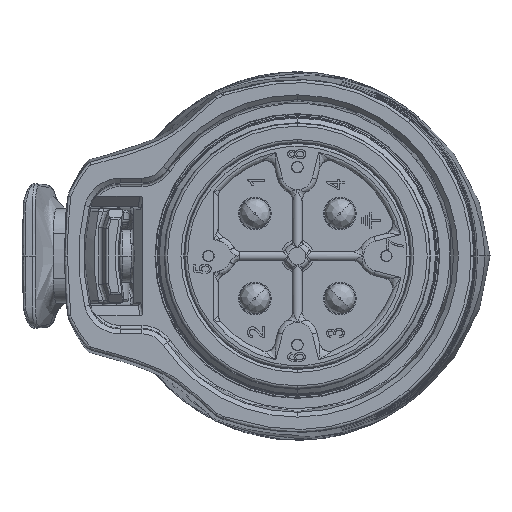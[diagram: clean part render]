
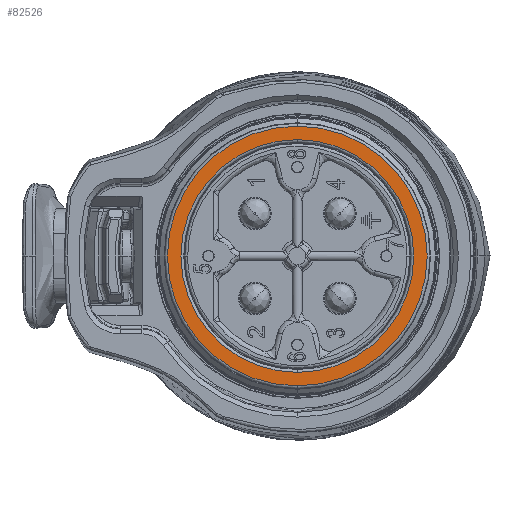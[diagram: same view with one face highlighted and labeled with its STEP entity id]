
A CAD part, left-side view. The second image highlights one B-rep face of the part: STEP entity #82526.
In plain terms, the highlighted planar face has unit normal (-1, 0, 0).
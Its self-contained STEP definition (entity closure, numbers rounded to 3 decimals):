
#2015 = VERTEX_POINT ( 'NONE', #90462 ) ;
#17278 = DIRECTION ( 'NONE',  ( 1., 0., 0. ) ) ;
#17848 = DIRECTION ( 'NONE',  ( -1., 0., 0. ) ) ;
#28252 = CARTESIAN_POINT ( 'NONE',  ( 0., 0., -12.101 ) ) ;
#36816 = AXIS2_PLACEMENT_3D ( 'NONE', #65120, #150496, #139770 ) ;
#40658 = ORIENTED_EDGE ( 'NONE', *, *, #74664, .T. ) ;
#45276 = DIRECTION ( 'NONE',  ( 0., 0., -1. ) ) ;
#48088 = FACE_BOUND ( 'NONE', #111733, .T. ) ;
#56430 = CIRCLE ( 'NONE', #156140, 12.101 ) ;
#57715 = EDGE_CURVE ( 'NONE', #123998, #86813, #117922, .T. ) ;
#60523 = EDGE_CURVE ( 'NONE', #2015, #109347, #132868, .T. ) ;
#65120 = CARTESIAN_POINT ( 'NONE',  ( 0., 0., 0. ) ) ;
#68468 = AXIS2_PLACEMENT_3D ( 'NONE', #115876, #80647, #45276 ) ;
#74664 = EDGE_CURVE ( 'NONE', #109347, #2015, #56430, .T. ) ;
#76728 = CARTESIAN_POINT ( 'NONE',  ( 0., 0., 0. ) ) ;
#79714 = ORIENTED_EDGE ( 'NONE', *, *, #60523, .T. ) ;
#80647 = DIRECTION ( 'NONE',  ( 1., 0., 0. ) ) ;
#82526 = ADVANCED_FACE ( 'NONE', ( #48088, #124566 ), #153759, .F. ) ;
#85307 = CARTESIAN_POINT ( 'NONE',  ( 0., 0., 13.502 ) ) ;
#86813 = VERTEX_POINT ( 'NONE', #143176 ) ;
#90462 = CARTESIAN_POINT ( 'NONE',  ( 0., 0., 12.101 ) ) ;
#104451 = DIRECTION ( 'NONE',  ( 0., 0., -1. ) ) ;
#106546 = DIRECTION ( 'NONE',  ( -1., 0., 0. ) ) ;
#109347 = VERTEX_POINT ( 'NONE', #28252 ) ;
#109768 = AXIS2_PLACEMENT_3D ( 'NONE', #154599, #106546, #104451 ) ;
#111733 = EDGE_LOOP ( 'NONE', ( #40658, #79714 ) ) ;
#115876 = CARTESIAN_POINT ( 'NONE',  ( 0., 11.8, 0. ) ) ;
#116553 = EDGE_LOOP ( 'NONE', ( #147839, #152152 ) ) ;
#117922 = CIRCLE ( 'NONE', #150279, 13.502 ) ;
#122436 = CIRCLE ( 'NONE', #109768, 13.502 ) ;
#123998 = VERTEX_POINT ( 'NONE', #85307 ) ;
#124566 = FACE_OUTER_BOUND ( 'NONE', #116553, .T. ) ;
#132868 = CIRCLE ( 'NONE', #36816, 12.101 ) ;
#139770 = DIRECTION ( 'NONE',  ( 0., 0., -1. ) ) ;
#143176 = CARTESIAN_POINT ( 'NONE',  ( 0., 0., -13.502 ) ) ;
#147839 = ORIENTED_EDGE ( 'NONE', *, *, #151326, .T. ) ;
#150279 = AXIS2_PLACEMENT_3D ( 'NONE', #153030, #17848, #154084 ) ;
#150496 = DIRECTION ( 'NONE',  ( 1., 0., 0. ) ) ;
#151326 = EDGE_CURVE ( 'NONE', #86813, #123998, #122436, .T. ) ;
#151392 = DIRECTION ( 'NONE',  ( 0., 0., -1. ) ) ;
#152152 = ORIENTED_EDGE ( 'NONE', *, *, #57715, .T. ) ;
#153030 = CARTESIAN_POINT ( 'NONE',  ( 0., 0., 0. ) ) ;
#153759 = PLANE ( 'NONE',  #68468 ) ;
#154084 = DIRECTION ( 'NONE',  ( 0., 0., -1. ) ) ;
#154599 = CARTESIAN_POINT ( 'NONE',  ( 0., 0., 0. ) ) ;
#156140 = AXIS2_PLACEMENT_3D ( 'NONE', #76728, #17278, #151392 ) ;
